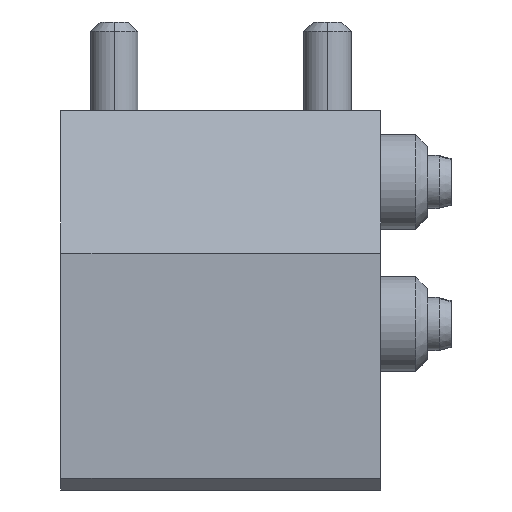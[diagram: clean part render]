
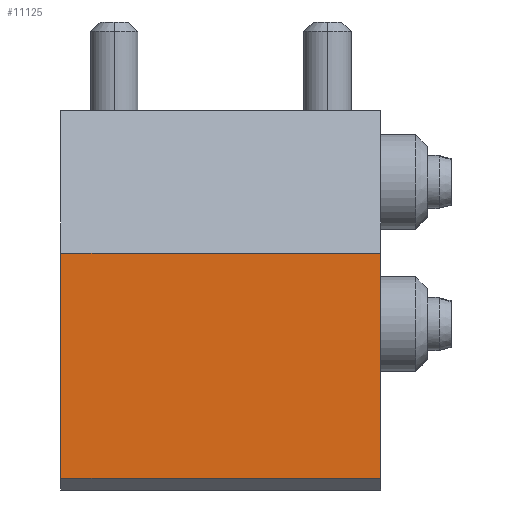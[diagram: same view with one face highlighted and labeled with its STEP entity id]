
A CAD part, left-side view. The second image highlights one B-rep face of the part: STEP entity #11125.
In plain terms, the highlighted planar face has unit normal (-1, 0, 0).
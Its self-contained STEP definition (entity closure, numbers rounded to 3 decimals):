
#333 = VECTOR ( 'NONE', #3010, 1000. ) ;
#347 = LINE ( 'NONE', #3174, #333 ) ;
#955 = CARTESIAN_POINT ( 'NONE',  ( -37.288, 0., 106. ) ) ;
#962 = DIRECTION ( 'NONE',  ( 0., 1., 0. ) ) ;
#1038 = EDGE_LOOP ( 'NONE', ( #8566, #4029, #10388, #5276 ) ) ;
#1438 = VECTOR ( 'NONE', #6993, 1000. ) ;
#1658 = VERTEX_POINT ( 'NONE', #2795 ) ;
#2745 = DIRECTION ( 'NONE',  ( 0., -1., 0. ) ) ;
#2748 = DIRECTION ( 'NONE',  ( -1., 0., 0. ) ) ;
#2778 = PLANE ( 'NONE',  #7251 ) ;
#2794 = VECTOR ( 'NONE', #9540, 1000. ) ;
#2795 = CARTESIAN_POINT ( 'NONE',  ( -37.288, 13.5, 87. ) ) ;
#2847 = LINE ( 'NONE', #7010, #1438 ) ;
#2850 = LINE ( 'NONE', #9494, #2794 ) ;
#2979 = CARTESIAN_POINT ( 'NONE',  ( -37.288, 13.5, 85. ) ) ;
#3010 = DIRECTION ( 'NONE',  ( 0., 0., 1. ) ) ;
#3154 = CARTESIAN_POINT ( 'NONE',  ( -37.288, -13.5, 87. ) ) ;
#3174 = CARTESIAN_POINT ( 'NONE',  ( -37.288, 13.5, 85. ) ) ;
#3495 = VERTEX_POINT ( 'NONE', #5818 ) ;
#4029 = ORIENTED_EDGE ( 'NONE', *, *, #6830, .T. ) ;
#4497 = VERTEX_POINT ( 'NONE', #3154 ) ;
#5145 = VERTEX_POINT ( 'NONE', #6650 ) ;
#5276 = ORIENTED_EDGE ( 'NONE', *, *, #6169, .T. ) ;
#5818 = CARTESIAN_POINT ( 'NONE',  ( -37.288, -13.5, 106. ) ) ;
#5836 = EDGE_CURVE ( 'NONE', #1658, #5145, #347, .T. ) ;
#6169 = EDGE_CURVE ( 'NONE', #3495, #5145, #10571, .T. ) ;
#6224 = FACE_OUTER_BOUND ( 'NONE', #1038, .T. ) ;
#6650 = CARTESIAN_POINT ( 'NONE',  ( -37.288, 13.5, 106. ) ) ;
#6788 = EDGE_CURVE ( 'NONE', #4497, #3495, #2847, .T. ) ;
#6830 = EDGE_CURVE ( 'NONE', #1658, #4497, #2850, .T. ) ;
#6993 = DIRECTION ( 'NONE',  ( 0., 0., 1. ) ) ;
#7010 = CARTESIAN_POINT ( 'NONE',  ( -37.288, -13.5, 85. ) ) ;
#7251 = AXIS2_PLACEMENT_3D ( 'NONE', #2979, #2748, #2745 ) ;
#7599 = VECTOR ( 'NONE', #962, 1000. ) ;
#8566 = ORIENTED_EDGE ( 'NONE', *, *, #5836, .F. ) ;
#9494 = CARTESIAN_POINT ( 'NONE',  ( -37.288, 13.5, 87. ) ) ;
#9540 = DIRECTION ( 'NONE',  ( 0., -1., 0. ) ) ;
#10388 = ORIENTED_EDGE ( 'NONE', *, *, #6788, .T. ) ;
#10571 = LINE ( 'NONE', #955, #7599 ) ;
#11125 = ADVANCED_FACE ( 'NONE', ( #6224 ), #2778, .T. ) ;
